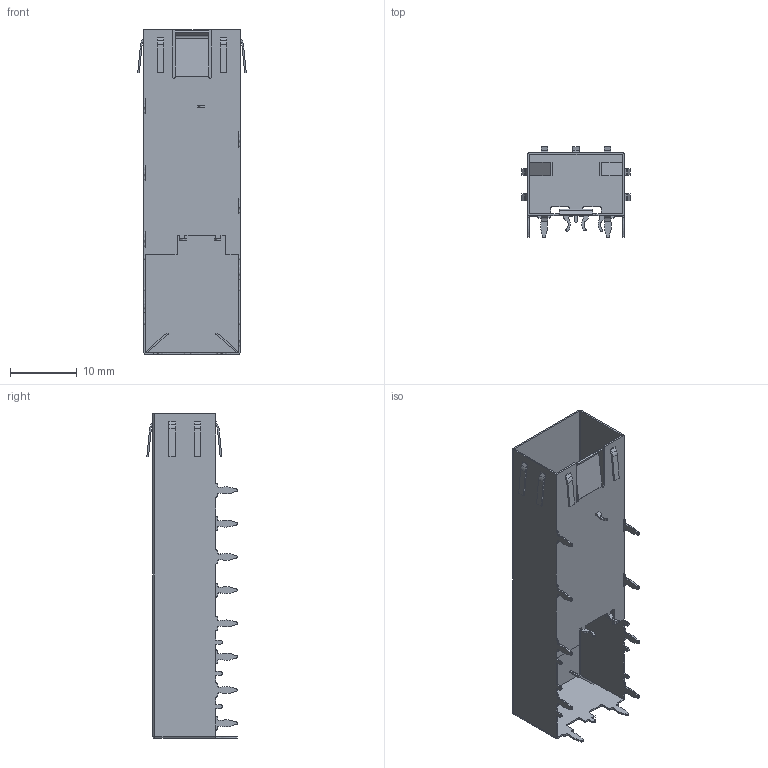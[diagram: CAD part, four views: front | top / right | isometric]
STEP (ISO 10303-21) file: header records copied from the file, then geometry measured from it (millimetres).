
FILE_DESCRIPTION (( 'STEP AP203' ), '1' );
FILE_NAME ('SFP 1X1 揤諉褐 衄堎挴.STEP', '2024-10-09T06:47:03', ( '' ), ( '' ), 'SwSTEP 2.0', 'SolidWorks 2018', '' );
FILE_SCHEMA (( 'CONFIG_CONTROL_DESIGN' ));
Length unit declared in the file: millimetre
Products named in the file (1): SFP 1X1 揤諉褐 衄堎挴
Bounding box: 16.3 x 13.55 x 48.75 mm (x, y, z)
Volume: 565.8 mm3; surface area: 4609.6 mm2
Topology: 1 solids, 1 shells, 456 faces, 1326 edges, 878 vertices
Faces by surface type: plane 231, cylinder 223, sphere 2
Entity records: 15223 total; most frequent: DIRECTION 2684, CARTESIAN_POINT 2659, ORIENTED_EDGE 2648, EDGE_CURVE 1324, AXIS2_PLACEMENT_3D 903, LINE 878, VECTOR 878, VERTEX_POINT 878
